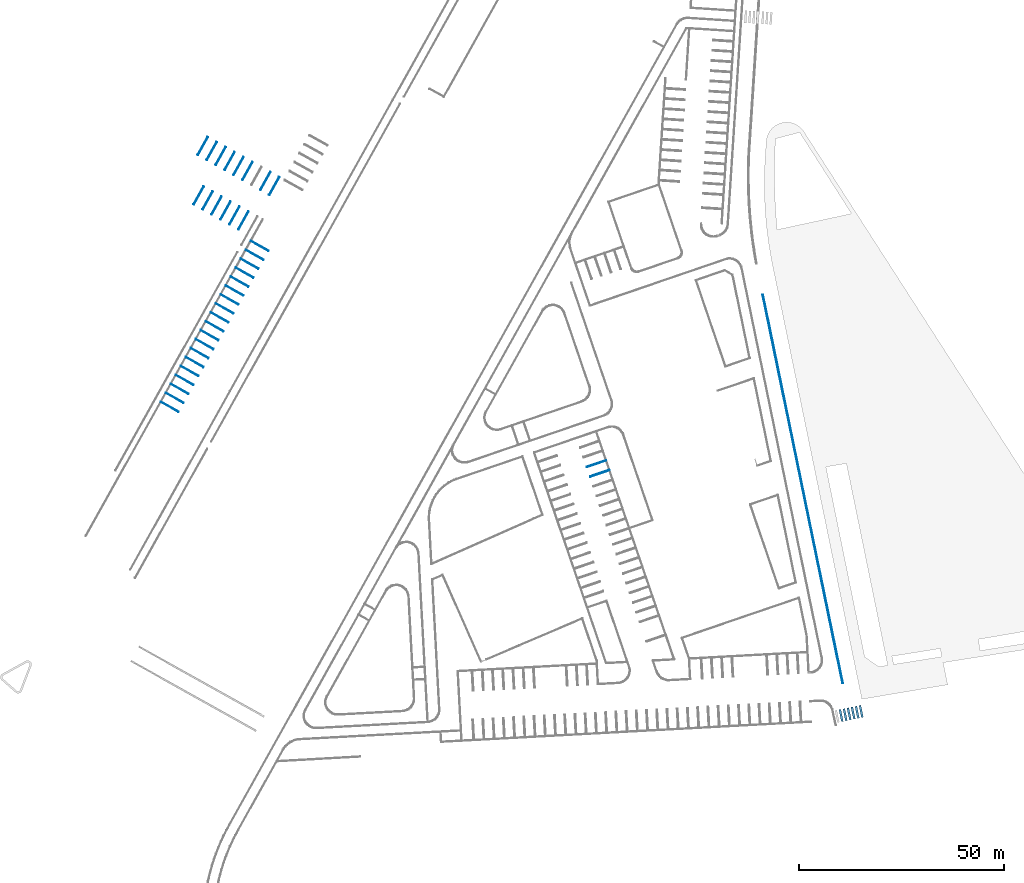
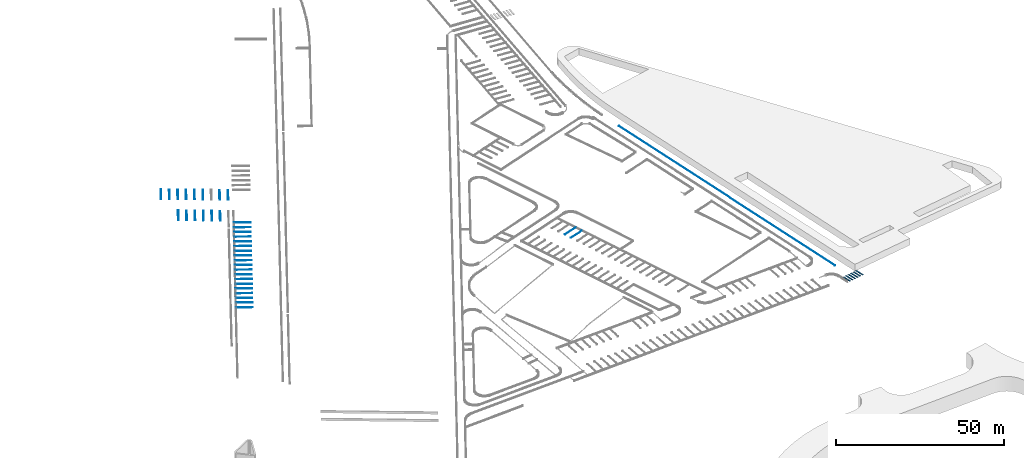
# One storey, part 79 of 112: 42 walls.
"""IFC2X3 building model written with IfcOpenShell, lengths in millimetres."""

from ifc_helpers import new_model, entity, si_unit, converted_unit, derived_unit, direction, frame, frame_2d, origin, origin_2d_with_axis, place, context, subcontext, project, spatial, rectangle, extrude, material, type_object, element, save


model = new_model("IFC2X3")

# Units and contexts
model_context = context("Model", 3, precision=0.01, world=origin(), true_north=direction((6.123031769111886e-17, 1.0)))
body_context = subcontext(model_context, "Body", "Model", "MODEL_VIEW")
ifc_project = project(units=[si_unit("LENGTHUNIT", "METRE", prefix="MILLI"), si_unit("AREAUNIT", "SQUARE_METRE"), si_unit("VOLUMEUNIT", "CUBIC_METRE"), converted_unit("PLANEANGLEUNIT", "DEGREE", entity("IfcRatioMeasure", 0.017453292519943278), si_unit("PLANEANGLEUNIT", "RADIAN"), dimensions=[0, 0, 0, 0, 0, 0, 0]), si_unit("MASSUNIT", "GRAM", prefix="KILO"), derived_unit("MASSDENSITYUNIT", [(si_unit("MASSUNIT", "GRAM", prefix="KILO"), 1), (si_unit("LENGTHUNIT", "METRE"), -3)]), derived_unit("MOMENTOFINERTIAUNIT", [(si_unit("LENGTHUNIT", "METRE"), 4)]), si_unit("TIMEUNIT", "SECOND"), si_unit("FREQUENCYUNIT", "HERTZ"), si_unit("THERMODYNAMICTEMPERATUREUNIT", "DEGREE_CELSIUS"), derived_unit("THERMALTRANSMITTANCEUNIT", [(si_unit("MASSUNIT", "GRAM", prefix="KILO"), 1), (si_unit("THERMODYNAMICTEMPERATUREUNIT", "KELVIN"), -1), (si_unit("TIMEUNIT", "SECOND"), -3)]), derived_unit("THERMALCONDUCTANCEUNIT", [(si_unit("MASSUNIT", "GRAM", prefix="KILO"), 1), (si_unit("LENGTHUNIT", "METRE"), 1), (si_unit("THERMODYNAMICTEMPERATUREUNIT", "KELVIN"), -1), (si_unit("TIMEUNIT", "SECOND"), -3)]), derived_unit("VOLUMETRICFLOWRATEUNIT", [(si_unit("LENGTHUNIT", "METRE"), 3), (si_unit("TIMEUNIT", "SECOND"), -1)]), derived_unit("MASSFLOWRATEUNIT", [(si_unit("MASSUNIT", "GRAM", prefix="KILO"), 1), (si_unit("TIMEUNIT", "SECOND"), -1)]), derived_unit("ROTATIONALFREQUENCYUNIT", [(si_unit("TIMEUNIT", "SECOND"), -1)]), si_unit("ELECTRICCURRENTUNIT", "AMPERE"), si_unit("ELECTRICVOLTAGEUNIT", "VOLT"), si_unit("POWERUNIT", "WATT"), converted_unit("FORCEUNIT", "KIP", entity("IfcRatioMeasure", 2.088543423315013e-05), si_unit("FORCEUNIT", "NEWTON"), dimensions=[1, 1, -2, 0, 0, 0, 0]), si_unit("ILLUMINANCEUNIT", "LUX"), si_unit("LUMINOUSFLUXUNIT", "LUMEN"), si_unit("LUMINOUSINTENSITYUNIT", "CANDELA"), derived_unit("USERDEFINED", [(si_unit("MASSUNIT", "GRAM", prefix="KILO"), -1), (si_unit("LENGTHUNIT", "METRE"), -2), (si_unit("TIMEUNIT", "SECOND"), 3), (si_unit("LUMINOUSFLUXUNIT", "LUMEN"), 1)]), derived_unit("USERDEFINED", [(si_unit("MASSUNIT", "GRAM", prefix="KILO"), 1), (si_unit("LENGTHUNIT", "METRE"), 3), (si_unit("TIMEUNIT", "SECOND"), -3), (si_unit("ELECTRICCURRENTUNIT", "AMPERE"), -2)]), derived_unit("USERDEFINED", [(si_unit("LENGTHUNIT", "METRE"), 2), (si_unit("TIMEUNIT", "SECOND"), -2)]), derived_unit("SOUNDPOWERUNIT", [(si_unit("MASSUNIT", "GRAM", prefix="KILO"), 1), (si_unit("LENGTHUNIT", "METRE"), 2), (si_unit("TIMEUNIT", "SECOND"), -3)]), derived_unit("SOUNDPRESSUREUNIT", [(si_unit("MASSUNIT", "GRAM", prefix="KILO"), 1), (si_unit("LENGTHUNIT", "METRE"), -1), (si_unit("TIMEUNIT", "SECOND"), -2)]), derived_unit("LINEARVELOCITYUNIT", [(si_unit("LENGTHUNIT", "METRE"), 1), (si_unit("TIMEUNIT", "SECOND"), -1)]), si_unit("PRESSUREUNIT", "PASCAL"), derived_unit("USERDEFINED", [(si_unit("LENGTHUNIT", "METRE"), -2), (si_unit("MASSUNIT", "GRAM", prefix="KILO"), 1), (si_unit("TIMEUNIT", "SECOND"), -2)]), derived_unit("LINEARFORCEUNIT", [(si_unit("MASSUNIT", "GRAM", prefix="KILO"), 1), (si_unit("LENGTHUNIT", "METRE"), 1), (si_unit("TIMEUNIT", "SECOND"), -2), (si_unit("LENGTHUNIT", "METRE"), -1)]), derived_unit("PLANARFORCEUNIT", [(si_unit("MASSUNIT", "GRAM", prefix="KILO"), 1), (si_unit("LENGTHUNIT", "METRE"), 1), (si_unit("TIMEUNIT", "SECOND"), -2), (si_unit("LENGTHUNIT", "METRE"), -2)]), derived_unit("SPECIFICHEATCAPACITYUNIT", [(si_unit("LENGTHUNIT", "METRE"), 2), (si_unit("TIMEUNIT", "SECOND"), -2), (si_unit("THERMODYNAMICTEMPERATUREUNIT", "KELVIN"), -1)]), derived_unit("VAPORPERMEABILITYUNIT", [(si_unit("TIMEUNIT", "SECOND"), 1), (si_unit("LENGTHUNIT", "METRE"), -1)]), derived_unit("DYNAMICVISCOSITYUNIT", [(si_unit("MASSUNIT", "GRAM", prefix="KILO"), 1), (si_unit("LENGTHUNIT", "METRE"), -1), (si_unit("TIMEUNIT", "SECOND"), -1)]), derived_unit("THERMALEXPANSIONCOEFFICIENTUNIT", [(si_unit("THERMODYNAMICTEMPERATUREUNIT", "KELVIN"), -1)])], contexts=[model_context])

# Site, building, storey
site_placement = place(None, frame((0.0, 0.0, 0.0), z_axis=(0.0, 0.0, 1.0), x_axis=(0.8191520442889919, 0.5735764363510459, 0.0)))
site = spatial("IfcSite", under=ifc_project, at=site_placement, Name="Default", CompositionType="ELEMENT")
building_placement = place(site_placement, origin())
building = spatial("IfcBuilding", under=site, at=building_placement, CompositionType="ELEMENT")
storey_placement = place(building_placement, frame((0.0, 0.0, -3600.0)))
storey = spatial("IfcBuildingStorey", under=building, at=storey_placement, Name="0.UG -3.60", CompositionType="ELEMENT", Elevation=-3600.0000000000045)

# Walls
ifc_material = material(Name="road_markirovka")
wall_type_1 = type_object("IfcWallType", Name="04", PredefinedType="NOTDEFINED", material=ifc_material)
wall_1_placement = place(storey_placement, frame((61648.51552232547, 16745.03513024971, 950.0), z_axis=(0.0, 0.0, 1.0), x_axis=(0.0, 1.0, 0.0)))
element("IfcWall", 1, at=wall_1_placement, inside=storey, type_object=wall_type_1, material=ifc_material, Name="04 203373:04 203373", ObjectType="04 203373:04 203373", context=body_context, shape_type="SweptSolid", body=[
    extrude(rectangle(XDim=200.00000000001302, YDim=96870.42140289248, at=frame_2d((-7.581490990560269e-12, 0.0), x_axis=(1.0, 0.0))), frame((44499.05336777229, -19309.844531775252, 0.0), z_axis=(0.0, 0.0, 1.0), x_axis=(0.3967785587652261, 0.9179143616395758, 0.0)), (0.0, 0.0, 1.0), 9.999999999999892),
])
wall_type_2 = type_object("IfcWallType", Name="04", PredefinedType="NOTDEFINED", material=ifc_material)
wall_2_placement = place(storey_placement, frame((40813.09495243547, 94393.42813679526, 2050.0)))
element("IfcWall", 2, at=wall_2_placement, inside=storey, type_object=wall_type_2, material=ifc_material, Name="04 205029:04 205029", ObjectType="04 205029:04 205029", context=body_context, shape_type="SweptSolid", body=[
    extrude(rectangle(XDim=199.99999999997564, YDim=5000.00000000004, at=frame_2d((9.542588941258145e-12, -1.8189894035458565e-12), x_axis=(1.0, 0.0))), frame((2429.5798968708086, 789.7597848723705, 0.0), z_axis=(0.0, 0.0, 1.0), x_axis=(0.2774745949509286, 0.9607329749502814, 0.0)), (0.0, 0.0, 1.0), 9.999999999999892),
])
wall_type_3 = type_object("IfcWallType", Name="04", PredefinedType="NOTDEFINED", material=ifc_material)
wall_3_placement = place(storey_placement, frame((40119.408465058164, 91991.59569941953, 2050.0)))
element("IfcWall", 3, at=wall_3_placement, inside=storey, type_object=wall_type_3, material=ifc_material, Name="04 205034:04 205034", ObjectType="04 205034:04 205034", context=body_context, shape_type="SweptSolid", body=[
    extrude(rectangle(XDim=199.99999999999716, YDim=5000.000000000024, at=frame_2d((9.542588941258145e-12, -1.5916157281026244e-12), x_axis=(1.0, 0.0))), frame((2429.5798968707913, 789.7597848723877, 0.0), z_axis=(0.0, 0.0, 1.0), x_axis=(0.2774745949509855, 0.9607329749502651, 0.0)), (0.0, 0.0, 1.0), 9.999999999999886),
])
wall_type_4 = type_object("IfcWallType", Name="05", PredefinedType="NOTDEFINED", material=ifc_material)
wall_4_placement = place(storey_placement, frame((-35310.448706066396, 164007.0898025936, 2310.0), z_axis=(0.0, 0.0, 1.0), x_axis=(0.0, 1.0, 0.0)))
element("IfcWall", 4, at=wall_4_placement, inside=storey, type_object=wall_type_4, material=ifc_material, Name="05 206878:05 206878", ObjectType="05 206878:05 206878", context=body_context, shape_type="SweptSolid", body=[
    extrude(rectangle(XDim=200.00000000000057, YDim=5000.000000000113, at=frame_2d((-3.652189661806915e-12, -1.77351466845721e-11), x_axis=(1.0, 0.0))), frame((2294.368159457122, -1178.003194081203, 0.0), z_axis=(0.0, 0.0, 1.0), x_axis=(-0.43518768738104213, 0.9003397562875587, 0.0)), (0.0, 0.0, 1.0), 9.999999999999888),
])
wall_type_5 = type_object("IfcWallType", Name="05", PredefinedType="NOTDEFINED", material=ifc_material)
wall_5_placement = place(storey_placement, frame((-28557.900533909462, 167270.99745795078, 2185.0), z_axis=(0.0, 0.0, 1.0), x_axis=(0.0, 1.0, 0.0)))
element("IfcWall", 5, at=wall_5_placement, inside=storey, type_object=wall_type_5, material=ifc_material, Name="05 206880:05 206880", ObjectType="05 206880:05 206880", context=body_context, shape_type="SweptSolid", body=[
    extrude(rectangle(XDim=200.00000000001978, YDim=5000.0000000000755, at=frame_2d((-1.8971491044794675e-12, 9.094947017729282e-13), x_axis=(1.0, 0.0))), frame((2294.368159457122, -1178.0031940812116, 0.0), z_axis=(0.0, 0.0, 1.0), x_axis=(-0.43518768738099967, 0.9003397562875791, 0.0)), (0.0, 0.0, 1.0), 9.999999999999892),
])
wall_type_6 = type_object("IfcWallType", Name="05", PredefinedType="NOTDEFINED", material=ifc_material)
wall_6_placement = place(storey_placement, frame((-30808.749924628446, 166183.0282394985, 2220.0), z_axis=(0.0, 0.0, 1.0), x_axis=(0.0, 1.0, 0.0)))
element("IfcWall", 6, at=wall_6_placement, inside=storey, type_object=wall_type_6, material=ifc_material, Name="05 206881:05 206881", ObjectType="05 206881:05 206881", context=body_context, shape_type="SweptSolid", body=[
    extrude(rectangle(XDim=200.0000000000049, YDim=5000.000000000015, at=frame_2d((-1.9682033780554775e-12, 6.821210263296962e-13), x_axis=(1.0, 0.0))), frame((2294.3681594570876, -1178.0031940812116, 0.0), z_axis=(0.0, 0.0, 1.0), x_axis=(-0.43518768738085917, 0.900339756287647, 0.0)), (0.0, 0.0, 1.0), 9.999999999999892),
])
wall_type_7 = type_object("IfcWallType", Name="05", PredefinedType="NOTDEFINED", material=ifc_material)
wall_7_placement = place(storey_placement, frame((-26307.05114319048, 168358.9666764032, 2150.0), z_axis=(0.0, 0.0, 1.0), x_axis=(0.0, 1.0, 0.0)))
element("IfcWall", 7, at=wall_7_placement, inside=storey, type_object=wall_type_7, material=ifc_material, Name="05 206884:05 206884", ObjectType="05 206884:05 206884", context=body_context, shape_type="SweptSolid", body=[
    extrude(rectangle(XDim=200.0000000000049, YDim=5000.000000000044, at=frame_2d((5.5493387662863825e-12, 1.6370904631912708e-11), x_axis=(1.0, 0.0))), frame((2294.368159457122, -1178.0031940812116, 0.0), z_axis=(0.0, 0.0, 1.0), x_axis=(-0.43518768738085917, 0.900339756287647, 0.0)), (0.0, 0.0, 1.0), 9.999999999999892),
])
wall_type_8 = type_object("IfcWallType", Name="05", PredefinedType="NOTDEFINED", material=ifc_material)
wall_8_placement = place(storey_placement, frame((-21805.352361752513, 170534.9051133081, 2060.0), z_axis=(0.0, 0.0, 1.0), x_axis=(0.0, 1.0, 0.0)))
element("IfcWall", 8, at=wall_8_placement, inside=storey, type_object=wall_type_8, material=ifc_material, Name="05 206887:05 206887", ObjectType="05 206887:05 206887", context=body_context, shape_type="SweptSolid", body=[
    extrude(rectangle(XDim=200.00000000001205, YDim=5000.000000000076, at=frame_2d((-9.542588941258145e-12, -1.4779288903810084e-11), x_axis=(1.0, 0.0))), frame((2294.3681594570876, -1178.003194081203, 0.0), z_axis=(0.0, 0.0, 1.0), x_axis=(-0.4351876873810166, 0.9003397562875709, 0.0)), (0.0, 0.0, 1.0), 9.999999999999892),
])
wall_type_9 = type_object("IfcWallType", Name="05", PredefinedType="NOTDEFINED", material=ifc_material)
wall_9_placement = place(storey_placement, frame((-24056.201752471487, 169446.9358948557, 2095.0), z_axis=(0.0, 0.0, 1.0), x_axis=(0.0, 1.0, 0.0)))
element("IfcWall", 9, at=wall_9_placement, inside=storey, type_object=wall_type_9, material=ifc_material, Name="05 206889:05 206889", ObjectType="05 206889:05 206889", context=body_context, shape_type="SweptSolid", body=[
    extrude(rectangle(XDim=199.99999999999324, YDim=5000.000000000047, at=frame_2d((1.8971491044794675e-12, -9.094947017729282e-13), x_axis=(1.0, 0.0))), frame((2294.3681594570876, -1178.003194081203, 0.0), z_axis=(0.0, 0.0, 1.0), x_axis=(-0.43518768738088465, 0.9003397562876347, 0.0)), (0.0, 0.0, 1.0), 9.999999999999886),
])
wall_type_10 = type_object("IfcWallType", Name="05", PredefinedType="NOTDEFINED", material=ifc_material)
wall_10_placement = place(storey_placement, frame((-33059.599315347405, 165095.05902104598, 2275.0), z_axis=(0.0, 0.0, 1.0), x_axis=(0.0, 1.0, 0.0)))
element("IfcWall", 10, at=wall_10_placement, inside=storey, type_object=wall_type_10, material=ifc_material, Name="05 206890:05 206890", ObjectType="05 206890:05 206890", context=body_context, shape_type="SweptSolid", body=[
    extrude(rectangle(XDim=199.99999999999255, YDim=5000.000000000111, at=frame_2d((1.1503686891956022e-11, 1.3642420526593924e-11), x_axis=(1.0, 0.0))), frame((2294.3681594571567, -1178.0031940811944, 0.0), z_axis=(0.0, 0.0, 1.0), x_axis=(-0.43518768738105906, 0.9003397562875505, 0.0)), (0.0, 0.0, 1.0), 9.999999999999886),
])
wall_type_11 = type_object("IfcWallType", Name="05", PredefinedType="NOTDEFINED", material=ifc_material)
wall_11_placement = place(storey_placement, frame((-19554.502971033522, 171622.8743317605, 2025.0), z_axis=(0.0, 0.0, 1.0), x_axis=(0.0, 1.0, 0.0)))
element("IfcWall", 11, at=wall_11_placement, inside=storey, type_object=wall_type_11, material=ifc_material, Name="05 206891:05 206891", ObjectType="05 206891:05 206891", context=body_context, shape_type="SweptSolid", body=[
    extrude(rectangle(XDim=199.9999999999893, YDim=5000.000000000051, at=frame_2d((8.462563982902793e-12, 1.5006662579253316e-11), x_axis=(1.0, 0.0))), frame((2294.368159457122, -1178.003194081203, 0.0), z_axis=(0.0, 0.0, 1.0), x_axis=(-0.43518768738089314, 0.9003397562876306, 0.0)), (0.0, 0.0, 1.0), 9.99999999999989),
])
wall_type_12 = type_object("IfcWallType", Name="05", PredefinedType="NOTDEFINED", material=ifc_material)
wall_12_placement = place(storey_placement, frame((-15052.804189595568, 173798.8127686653, 1955.0), z_axis=(0.0, 0.0, 1.0), x_axis=(0.0, 1.0, 0.0)))
element("IfcWall", 12, at=wall_12_placement, inside=storey, type_object=wall_type_12, material=ifc_material, Name="05 206893:05 206893", ObjectType="05 206893:05 206893", context=body_context, shape_type="SweptSolid", body=[
    extrude(rectangle(XDim=200.00000000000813, YDim=5000.000000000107, at=frame_2d((-8.526512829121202e-12, -1.5234036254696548e-11), x_axis=(1.0, 0.0))), frame((2294.368159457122, -1178.003194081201, 0.0), z_axis=(0.0, 0.0, 1.0), x_axis=(-0.4351876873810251, 0.9003397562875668, 0.0)), (0.0, 0.0, 1.0), 9.999999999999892),
])
wall_type_13 = type_object("IfcWallType", Name="05", PredefinedType="NOTDEFINED", material=ifc_material)
wall_13_placement = place(storey_placement, frame((-17303.65358031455, 172710.8435502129, 1990.0), z_axis=(0.0, 0.0, 1.0), x_axis=(0.0, 1.0, 0.0)))
element("IfcWall", 13, at=wall_13_placement, inside=storey, type_object=wall_type_13, material=ifc_material, Name="05 206896:05 206896", ObjectType="05 206896:05 206896", context=body_context, shape_type="SweptSolid", body=[
    extrude(rectangle(XDim=200.00000000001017, YDim=5000.000000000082, at=frame_2d((-7.510436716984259e-12, -1.5688783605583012e-11), x_axis=(1.0, 0.0))), frame((2294.3681594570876, -1178.0031940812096, 0.0), z_axis=(0.0, 0.0, 1.0), x_axis=(-0.43518768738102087, 0.9003397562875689, 0.0)), (0.0, 0.0, 1.0), 9.999999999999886),
])
wall_type_14 = type_object("IfcWallType", Name="05", PredefinedType="NOTDEFINED", material=ifc_material)
wall_14_placement = place(storey_placement, frame((-12801.9547988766, 174886.78198711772, 1920.0), z_axis=(0.0, 0.0, 1.0), x_axis=(0.0, 1.0, 0.0)))
element("IfcWall", 14, at=wall_14_placement, inside=storey, type_object=wall_type_14, material=ifc_material, Name="05 206897:05 206897", ObjectType="05 206897:05 206897", context=body_context, shape_type="SweptSolid", body=[
    extrude(rectangle(XDim=200.0000000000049, YDim=5000.000000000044, at=frame_2d((-5.8832938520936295e-12, 2.7284841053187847e-12), x_axis=(1.0, 0.0))), frame((2294.3681594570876, -1178.003194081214, 0.0), z_axis=(0.0, 0.0, 1.0), x_axis=(-0.43518768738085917, 0.900339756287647, 0.0)), (0.0, 0.0, 1.0), 9.999999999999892),
])
wall_type_15 = type_object("IfcWallType", Name="05", PredefinedType="NOTDEFINED", material=ifc_material)
wall_15_placement = place(storey_placement, frame((-10551.105408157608, 175974.7512055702, 1885.0), z_axis=(0.0, 0.0, 1.0), x_axis=(0.0, 1.0, 0.0)))
element("IfcWall", 15, at=wall_15_placement, inside=storey, type_object=wall_type_15, material=ifc_material, Name="05 206899:05 206899", ObjectType="05 206899:05 206899", context=body_context, shape_type="SweptSolid", body=[
    extrude(rectangle(XDim=200.00000000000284, YDim=5000.000000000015, at=frame_2d((-1.0160761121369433e-12, 2.2737367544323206e-13), x_axis=(1.0, 0.0))), frame((2294.3681594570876, -1178.0031940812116, 0.0), z_axis=(0.0, 0.0, 1.0), x_axis=(-0.43518768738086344, 0.900339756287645, 0.0)), (0.0, 0.0, 1.0), 9.999999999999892),
])
wall_type_16 = type_object("IfcWallType", Name="05", PredefinedType="NOTDEFINED", material=ifc_material)
wall_16_placement = place(storey_placement, frame((-8300.256017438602, 177062.72042402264, 1850.0), z_axis=(0.0, 0.0, 1.0), x_axis=(0.0, 1.0, 0.0)))
element("IfcWall", 16, at=wall_16_placement, inside=storey, type_object=wall_type_16, material=ifc_material, Name="05 206901:05 206901", ObjectType="05 206901:05 206901", context=body_context, shape_type="SweptSolid", body=[
    extrude(rectangle(XDim=199.9999999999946, YDim=5000.000000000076, at=frame_2d((-4.604316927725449e-12, -1.7053025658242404e-11), x_axis=(1.0, 0.0))), frame((2294.3681594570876, -1178.00319408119, 0.0), z_axis=(0.0, 0.0, 1.0), x_axis=(-0.4351876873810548, 0.9003397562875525, 0.0)), (0.0, 0.0, 1.0), 9.999999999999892),
])
wall_type_17 = type_object("IfcWallType", Name="05", PredefinedType="NOTDEFINED", material=ifc_material)
wall_17_placement = place(storey_placement, frame((-3798.557236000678, 179238.65886092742, 1780.0), z_axis=(0.0, 0.0, 1.0), x_axis=(0.0, 1.0, 0.0)))
element("IfcWall", 17, at=wall_17_placement, inside=storey, type_object=wall_type_17, material=ifc_material, Name="05 206903:05 206903", ObjectType="05 206903:05 206903", context=body_context, shape_type="SweptSolid", body=[
    extrude(rectangle(XDim=200.00000000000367, YDim=5000.000000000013, at=frame_2d((-1.333688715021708e-11, -1.2960299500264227e-11), x_axis=(1.0, 0.0))), frame((2294.368159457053, -1178.0031940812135, 0.0), z_axis=(0.0, 0.0, 1.0), x_axis=(-0.43518768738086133, 0.900339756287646, 0.0)), (0.0, 0.0, 1.0), 9.999999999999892),
])
wall_type_18 = type_object("IfcWallType", Name="05", PredefinedType="NOTDEFINED", material=ifc_material)
wall_18_placement = place(storey_placement, frame((-1547.707845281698, 180326.62807937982, 1745.0), z_axis=(0.0, 0.0, 1.0), x_axis=(0.0, 1.0, 0.0)))
element("IfcWall", 18, at=wall_18_placement, inside=storey, type_object=wall_type_18, material=ifc_material, Name="05 206905:05 206905", ObjectType="05 206905:05 206905", context=body_context, shape_type="SweptSolid", body=[
    extrude(rectangle(XDim=200.0000000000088, YDim=5000.000000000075, at=frame_2d((-1.049471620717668e-11, -1.432454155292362e-11), x_axis=(1.0, 0.0))), frame((2294.3681594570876, -1178.0031940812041, 0.0), z_axis=(0.0, 0.0, 1.0), x_axis=(-0.43518768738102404, 0.9003397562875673, 0.0)), (0.0, 0.0, 1.0), 9.999999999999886),
])
wall_type_19 = type_object("IfcWallType", Name="05", PredefinedType="NOTDEFINED", material=ifc_material)
wall_19_placement = place(storey_placement, frame((703.1415454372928, 181414.59729783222, 1710.0), z_axis=(0.0, 0.0, 1.0), x_axis=(0.0, 1.0, 0.0)))
element("IfcWall", 19, at=wall_19_placement, inside=storey, type_object=wall_type_19, material=ifc_material, Name="05 206907:05 206907", ObjectType="05 206907:05 206907", context=body_context, shape_type="SweptSolid", body=[
    extrude(rectangle(XDim=200.0000000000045, YDim=5000.000000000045, at=frame_2d((4.533262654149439e-12, 1.7053025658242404e-11), x_axis=(1.0, 0.0))), frame((2294.368159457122, -1178.0031940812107, 0.0), z_axis=(0.0, 0.0, 1.0), x_axis=(-0.43518768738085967, 0.9003397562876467, 0.0)), (0.0, 0.0, 1.0), 9.999999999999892),
])
wall_type_20 = type_object("IfcWallType", Name="05", PredefinedType="NOTDEFINED", material=ifc_material)
wall_20_placement = place(storey_placement, frame((2953.9909361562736, 182502.5665162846, 1675.0), z_axis=(0.0, 0.0, 1.0), x_axis=(0.0, 1.0, 0.0)))
element("IfcWall", 20, at=wall_20_placement, inside=storey, type_object=wall_type_20, material=ifc_material, Name="05 206911:05 206911", ObjectType="05 206911:05 206911", context=body_context, shape_type="SweptSolid", body=[
    extrude(rectangle(XDim=200.0000000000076, YDim=5000.000000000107, at=frame_2d((2.7000623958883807e-13, 0.0), x_axis=(1.0, 0.0))), frame((2294.368159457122, -1178.003194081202, 0.0), z_axis=(0.0, 0.0, 1.0), x_axis=(-0.4351876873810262, 0.9003397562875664, 0.0)), (0.0, 0.0, 1.0), 9.999999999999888),
])
wall_type_21 = type_object("IfcWallType", Name="05", PredefinedType="NOTDEFINED", material=ifc_material)
wall_21_placement = place(storey_placement, frame((14314.681859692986, 196869.33058300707, 1650.0)))
element("IfcWall", 21, at=wall_21_placement, inside=storey, type_object=wall_type_21, material=ifc_material, Name="05 206912:05 206912", ObjectType="05 206912:05 206912", context=body_context, shape_type="SweptSolid", body=[
    extrude(rectangle(XDim=200.00000000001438, YDim=5000.000000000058, at=origin_2d_with_axis()), frame((2294.3681594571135, 1178.0031940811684, 0.0), z_axis=(0.0, 0.0, 1.0), x_axis=(-0.43518768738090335, 0.9003397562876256, 0.0)), (0.0, 0.0, 1.0), 9.999999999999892),
])
wall_type_22 = type_object("IfcWallType", Name="05", PredefinedType="NOTDEFINED", material=ifc_material)
wall_22_placement = place(storey_placement, frame((-6049.406626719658, 178150.689642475, 1815.0), z_axis=(0.0, 0.0, 1.0), x_axis=(0.0, 1.0, 0.0)))
element("IfcWall", 22, at=wall_22_placement, inside=storey, type_object=wall_type_22, material=ifc_material, Name="05 206914:05 206914", ObjectType="05 206914:05 206914", context=body_context, shape_type="SweptSolid", body=[
    extrude(rectangle(XDim=200.00000000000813, YDim=5000.000000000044, at=frame_2d((4.945377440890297e-12, 1.6825651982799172e-11), x_axis=(1.0, 0.0))), frame((2294.368159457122, -1178.0031940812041, 0.0), z_axis=(0.0, 0.0, 1.0), x_axis=(-0.4351876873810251, 0.9003397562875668, 0.0)), (0.0, 0.0, 1.0), 9.999999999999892),
])
wall_type_23 = type_object("IfcWallType", Name="05", PredefinedType="NOTDEFINED", material=ifc_material)
wall_23_placement = place(storey_placement, frame((5204.840326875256, 183590.53573473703, 1640.0), z_axis=(0.0, 0.0, 1.0), x_axis=(0.0, 1.0, 0.0)))
element("IfcWall", 23, at=wall_23_placement, inside=storey, type_object=wall_type_23, material=ifc_material, Name="05 206917:05 206917", ObjectType="05 206917:05 206917", context=body_context, shape_type="SweptSolid", body=[
    extrude(rectangle(XDim=199.99999999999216, YDim=5000.000000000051, at=frame_2d((8.050449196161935e-12, 1.5234036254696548e-11), x_axis=(1.0, 0.0))), frame((2294.368159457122, -1178.0031940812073, 0.0), z_axis=(0.0, 0.0, 1.0), x_axis=(-0.4351876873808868, 0.9003397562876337, 0.0)), (0.0, 0.0, 1.0), 9.999999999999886),
])
wall_type_24 = type_object("IfcWallType", Name="05", PredefinedType="NOTDEFINED", material=ifc_material)
wall_24_placement = place(storey_placement, frame((9962.804985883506, 205872.72814588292, 1850.0)))
element("IfcWall", 24, at=wall_24_placement, inside=storey, type_object=wall_type_24, material=ifc_material, Name="05 206918:05 206918", ObjectType="05 206918:05 206918", context=body_context, shape_type="SweptSolid", body=[
    extrude(rectangle(XDim=200.00000000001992, YDim=5000.000000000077, at=frame_2d((9.450218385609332e-13, 2.2737367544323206e-12), x_axis=(1.0, 0.0))), frame((2294.368159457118, 1178.0031940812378, 0.0), z_axis=(0.0, 0.0, 1.0), x_axis=(-0.43518768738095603, 0.9003397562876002, 0.0)), (0.0, 0.0, 1.0), 9.999999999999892),
])
wall_type_25 = type_object("IfcWallType", Name="05", PredefinedType="NOTDEFINED", material=ifc_material)
wall_25_placement = place(storey_placement, frame((11050.774204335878, 203621.87875516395, 1800.0)))
element("IfcWall", 25, at=wall_25_placement, inside=storey, type_object=wall_type_25, material=ifc_material, Name="05 206921:05 206921", ObjectType="05 206921:05 206921", context=body_context, shape_type="SweptSolid", body=[
    extrude(rectangle(XDim=200.0000000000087, YDim=5000.000000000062, at=frame_2d((9.450218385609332e-13, 1.8189894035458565e-12), x_axis=(1.0, 0.0))), frame((2294.3681594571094, 1178.003194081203, 0.0), z_axis=(0.0, 0.0, 1.0), x_axis=(-0.43518768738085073, 0.9003397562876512, 0.0)), (0.0, 0.0, 1.0), 9.999999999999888),
])
wall_type_26 = type_object("IfcWallType", Name="05", PredefinedType="NOTDEFINED", material=ifc_material)
wall_26_placement = place(storey_placement, frame((12138.743422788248, 201371.02936444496, 1750.0)))
element("IfcWall", 26, at=wall_26_placement, inside=storey, type_object=wall_type_26, material=ifc_material, Name="05 206922:05 206922", ObjectType="05 206922:05 206922", context=body_context, shape_type="SweptSolid", body=[
    extrude(rectangle(XDim=200.0000000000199, YDim=5000.000000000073, at=frame_2d((-9.450218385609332e-13, -2.2737367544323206e-12), x_axis=(1.0, 0.0))), frame((2294.3681594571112, 1178.003194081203, 0.0), z_axis=(0.0, 0.0, 1.0), x_axis=(-0.43518768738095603, 0.9003397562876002, 0.0)), (0.0, 0.0, 1.0), 9.999999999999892),
])
wall_type_27 = type_object("IfcWallType", Name="05", PredefinedType="NOTDEFINED", material=ifc_material)
wall_27_placement = place(storey_placement, frame((15402.651078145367, 194618.48119228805, 1610.0)))
element("IfcWall", 27, at=wall_27_placement, inside=storey, type_object=wall_type_27, material=ifc_material, Name="05 206925:05 206925", ObjectType="05 206925:05 206925", context=body_context, shape_type="SweptSolid", body=[
    extrude(rectangle(XDim=199.99999999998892, YDim=5000.000000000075, at=frame_2d((-1.752908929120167e-11, 3.865352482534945e-12), x_axis=(1.0, 0.0))), frame((2294.3681594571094, 1178.003194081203, 0.0), z_axis=(0.0, 0.0, 1.0), x_axis=(-0.4351876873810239, 0.9003397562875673, 0.0)), (0.0, 0.0, 1.0), 9.999999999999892),
])
wall_type_28 = type_object("IfcWallType", Name="05", PredefinedType="NOTDEFINED", material=ifc_material)
wall_28_placement = place(storey_placement, frame((8874.835767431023, 208123.57753660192, 1900.0)))
element("IfcWall", 28, at=wall_28_placement, inside=storey, type_object=wall_type_28, material=ifc_material, Name="05 206927:05 206927", ObjectType="05 206927:05 206927", context=body_context, shape_type="SweptSolid", body=[
    extrude(rectangle(XDim=199.99999999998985, YDim=5000.000000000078, at=frame_2d((3.092992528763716e-11, -1.546140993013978e-11), x_axis=(1.0, 0.0))), frame((2294.368159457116, 1178.003194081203, 0.0), z_axis=(0.0, 0.0, 1.0), x_axis=(-0.4351876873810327, 0.9003397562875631, 0.0)), (0.0, 0.0, 1.0), 9.999999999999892),
])
wall_type_29 = type_object("IfcWallType", Name="05", PredefinedType="NOTDEFINED", material=ifc_material)
wall_29_placement = place(storey_placement, frame((6698.897330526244, 212625.27631803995, 2010.0)))
element("IfcWall", 29, at=wall_29_placement, inside=storey, type_object=wall_type_29, material=ifc_material, Name="05 206929:05 206929", ObjectType="05 206929:05 206929", context=body_context, shape_type="SweptSolid", body=[
    extrude(rectangle(XDim=200.00000000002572, YDim=5000.000000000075, at=frame_2d((-1.4210854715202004e-12, -2.9558577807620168e-12), x_axis=(1.0, 0.0))), frame((2294.368159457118, 1178.003194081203, 0.0), z_axis=(0.0, 0.0, 1.0), x_axis=(-0.4351876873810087, 0.9003397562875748, 0.0)), (0.0, 0.0, 1.0), 9.99999999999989),
])
wall_type_30 = type_object("IfcWallType", Name="05", PredefinedType="NOTDEFINED", material=ifc_material)
wall_30_placement = place(storey_placement, frame((3322.975322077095, 194333.11541253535, 1750.0)))
element("IfcWall", 30, at=wall_30_placement, inside=storey, type_object=wall_type_30, material=ifc_material, Name="05 206932:05 206932", ObjectType="05 206932:05 206932", context=body_context, shape_type="SweptSolid", body=[
    extrude(rectangle(XDim=200.00000000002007, YDim=5000.000000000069, at=frame_2d((-1.7060131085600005e-11, 4.547473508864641e-12), x_axis=(1.0, 0.0))), frame((2294.368159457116, 1178.003194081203, 0.0), z_axis=(0.0, 0.0, 1.0), x_axis=(-0.43518768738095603, 0.9003397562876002, 0.0)), (0.0, 0.0, 1.0), 9.999999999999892),
])
wall_type_31 = type_object("IfcWallType", Name="05", PredefinedType="NOTDEFINED", material=ifc_material)
wall_31_placement = place(storey_placement, frame((2235.0061036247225, 196583.96480325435, 1820.0)))
element("IfcWall", 31, at=wall_31_placement, inside=storey, type_object=wall_type_31, material=ifc_material, Name="05 206934:05 206934", ObjectType="05 206934:05 206934", context=body_context, shape_type="SweptSolid", body=[
    extrude(rectangle(XDim=200.0000000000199, YDim=5000.000000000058, at=frame_2d((1.4487966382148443e-11, -1.000444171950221e-11), x_axis=(1.0, 0.0))), frame((2294.3681594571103, 1178.0031940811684, 0.0), z_axis=(0.0, 0.0, 1.0), x_axis=(-0.43518768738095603, 0.9003397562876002, 0.0)), (0.0, 0.0, 1.0), 9.99999999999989),
])
wall_type_32 = type_object("IfcWallType", Name="05", PredefinedType="NOTDEFINED", material=ifc_material)
wall_32_placement = place(storey_placement, frame((1147.0368851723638, 198834.81419397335, 1890.0)))
element("IfcWall", 32, at=wall_32_placement, inside=storey, type_object=wall_type_32, material=ifc_material, Name="05 206935:05 206935", ObjectType="05 206935:05 206935", context=body_context, shape_type="SweptSolid", body=[
    extrude(rectangle(XDim=200.00000000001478, YDim=5000.000000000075, at=frame_2d((-1.7188028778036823e-11, 3.865352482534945e-12), x_axis=(1.0, 0.0))), frame((2294.368159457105, 1178.003194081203, 0.0), z_axis=(0.0, 0.0, 1.0), x_axis=(-0.4351876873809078, 0.9003397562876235, 0.0)), (0.0, 0.0, 1.0), 9.999999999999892),
])
wall_type_33 = type_object("IfcWallType", Name="05", PredefinedType="NOTDEFINED", material=ifc_material)
wall_33_placement = place(storey_placement, frame((59.06766671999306, 201085.66358469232, 1960.0)))
element("IfcWall", 33, at=wall_33_placement, inside=storey, type_object=wall_type_33, material=ifc_material, Name="05 206939:05 206939", ObjectType="05 206939:05 206939", context=body_context, shape_type="SweptSolid", body=[
    extrude(rectangle(XDim=199.99999999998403, YDim=5000.000000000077, at=frame_2d((1.5432988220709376e-11, -7.958078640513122e-12), x_axis=(1.0, 0.0))), frame((2294.368159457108, 1178.003194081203, 0.0), z_axis=(0.0, 0.0, 1.0), x_axis=(-0.43518768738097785, 0.9003397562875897, 0.0)), (0.0, 0.0, 1.0), 9.999999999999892),
])
wall_type_34 = type_object("IfcWallType", Name="05", PredefinedType="NOTDEFINED", material=ifc_material)
wall_34_placement = place(storey_placement, frame((7786.866548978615, 210374.42692732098, 1960.0)))
element("IfcWall", 34, at=wall_34_placement, inside=storey, type_object=wall_type_34, material=ifc_material, Name="05 206941:05 206941", ObjectType="05 206941:05 206941", context=body_context, shape_type="SweptSolid", body=[
    extrude(rectangle(XDim=200.00000000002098, YDim=5000.000000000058, at=frame_2d((-1.4210854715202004e-12, -2.7284841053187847e-12), x_axis=(1.0, 0.0))), frame((2294.3681594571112, 1178.0031940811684, 0.0), z_axis=(0.0, 0.0, 1.0), x_axis=(-0.4351876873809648, 0.900339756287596, 0.0)), (0.0, 0.0, 1.0), 9.999999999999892),
])
wall_type_35 = type_object("IfcWallType", Name="05", PredefinedType="NOTDEFINED", material=ifc_material)
wall_35_placement = place(storey_placement, frame((-1028.9015517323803, 203336.51297541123, 2030.0)))
element("IfcWall", 35, at=wall_35_placement, inside=storey, type_object=wall_type_35, material=ifc_material, Name="05 206942:05 206942", ObjectType="05 206942:05 206942", context=body_context, shape_type="SweptSolid", body=[
    extrude(rectangle(XDim=199.99999999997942, YDim=5000.000000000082, at=frame_2d((1.2860823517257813e-12, 2.7284841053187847e-12), x_axis=(1.0, 0.0))), frame((2294.368159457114, 1178.003194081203, 0.0), z_axis=(0.0, 0.0, 1.0), x_axis=(-0.4351876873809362, 0.9003397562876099, 0.0)), (0.0, 0.0, 1.0), 9.999999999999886),
])
wall_type_36 = type_object("IfcWallType", Name="05", PredefinedType="NOTDEFINED", material=ifc_material)
wall_36_placement = place(storey_placement, frame((4410.9445405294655, 192082.26602181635, 1680.0)))
element("IfcWall", 36, at=wall_36_placement, inside=storey, type_object=wall_type_36, material=ifc_material, Name="05 206944:05 206944", ObjectType="05 206944:05 206944", context=body_context, shape_type="SweptSolid", body=[
    extrude(rectangle(XDim=200.00000000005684, YDim=5000.000000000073, at=frame_2d((-1.8339108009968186e-11, 1.8189894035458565e-12), x_axis=(1.0, 0.0))), frame((2294.3681594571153, 1178.003194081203, 0.0), z_axis=(0.0, 0.0, 1.0), x_axis=(-0.4351876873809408, 0.9003397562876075, 0.0)), (0.0, 0.0, 1.0), 9.999999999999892),
])
wall_type_37 = type_object("IfcWallType", Name="81", PredefinedType="NOTDEFINED", material=ifc_material)
wall_37_placement = place(storey_placement, frame((59742.899132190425, 7528.148330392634, 950.0), z_axis=(0.0, 0.0, 1.0), x_axis=(0.0, 1.0, 0.0)))
element("IfcWall", 37, at=wall_37_placement, inside=storey, type_object=wall_type_37, material=ifc_material, Name="81 207297:81 207297", ObjectType="81 207297:81 207297", context=body_context, shape_type="SweptSolid", body=[
    extrude(rectangle(XDim=499.99999999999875, YDim=3000.000000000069, at=origin_2d_with_axis()), frame((1476.9916756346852, -821.3935036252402, 0.0), z_axis=(0.0, 0.0, 1.0), x_axis=(0.39444221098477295, 0.918920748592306, 0.0)), (0.0, 0.0, 1.0), 9.999999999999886),
])
wall_type_38 = type_object("IfcWallType", Name="81", PredefinedType="NOTDEFINED", material=ifc_material)
wall_38_placement = place(storey_placement, frame((60661.819880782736, 7133.706119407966, 950.0), z_axis=(0.0, 0.0, 1.0), x_axis=(0.0, 1.0, 0.0)))
element("IfcWall", 38, at=wall_38_placement, inside=storey, type_object=wall_type_38, material=ifc_material, Name="81 207302:81 207302", ObjectType="81 207302:81 207302", context=body_context, shape_type="SweptSolid", body=[
    extrude(rectangle(XDim=499.99999999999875, YDim=3000.000000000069, at=frame_2d((4.391154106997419e-12, 6.821210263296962e-13), x_axis=(1.0, 0.0))), frame((1476.9916756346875, -821.3935036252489, 0.0), z_axis=(0.0, 0.0, 1.0), x_axis=(0.39444221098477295, 0.918920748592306, 0.0)), (0.0, 0.0, 1.0), 9.999999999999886),
])
wall_type_39 = type_object("IfcWallType", Name="81", PredefinedType="NOTDEFINED", material=ifc_material)
wall_39_placement = place(storey_placement, frame((57905.05763500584, 8317.032752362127, 950.0), z_axis=(0.0, 0.0, 1.0), x_axis=(0.0, 1.0, 0.0)))
element("IfcWall", 39, at=wall_39_placement, inside=storey, type_object=wall_type_39, material=ifc_material, Name="81 207306:81 207306", ObjectType="81 207306:81 207306", context=body_context, shape_type="SweptSolid", body=[
    extrude(rectangle(XDim=500.0000000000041, YDim=3000.00000000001, at=frame_2d((-3.993250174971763e-12, -1.7053025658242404e-12), x_axis=(1.0, 0.0))), frame((1476.9916756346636, -821.3935036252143, 0.0), z_axis=(0.0, 0.0, 1.0), x_axis=(0.3944422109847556, 0.9189207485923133, 0.0)), (0.0, 0.0, 1.0), 9.999999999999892),
])
wall_type_40 = type_object("IfcWallType", Name="81", PredefinedType="NOTDEFINED", material=ifc_material)
wall_40_placement = place(storey_placement, frame((56986.13688641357, 8711.47496334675, 950.0), z_axis=(0.0, 0.0, 1.0), x_axis=(0.0, 1.0, 0.0)))
element("IfcWall", 40, at=wall_40_placement, inside=storey, type_object=wall_type_40, material=ifc_material, Name="81 207307:81 207307", ObjectType="81 207307:81 207307", context=body_context, shape_type="SweptSolid", body=[
    extrude(rectangle(XDim=499.9999999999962, YDim=3000.0000000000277, at=origin_2d_with_axis()), frame((1476.991675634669, -821.3935036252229, 0.0), z_axis=(0.0, 0.0, 1.0), x_axis=(0.3944422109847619, 0.9189207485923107, 0.0)), (0.0, 0.0, 1.0), 9.99999999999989),
])
wall_type_41 = type_object("IfcWallType", Name="81", PredefinedType="NOTDEFINED", material=ifc_material)
wall_41_placement = place(storey_placement, frame((58823.978383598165, 7922.590541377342, 950.0), z_axis=(0.0, 0.0, 1.0), x_axis=(0.0, 1.0, 0.0)))
element("IfcWall", 41, at=wall_41_placement, inside=storey, type_object=wall_type_41, material=ifc_material, Name="81 207310:81 207310", ObjectType="81 207310:81 207310", context=body_context, shape_type="SweptSolid", body=[
    extrude(rectangle(XDim=499.99999999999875, YDim=3000.000000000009, at=frame_2d((1.1567635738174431e-11, 6.0254023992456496e-12), x_axis=(1.0, 0.0))), frame((1476.9916756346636, -821.3935036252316, 0.0), z_axis=(0.0, 0.0, 1.0), x_axis=(0.39444221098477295, 0.918920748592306, 0.0)), (0.0, 0.0, 1.0), 9.999999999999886),
])
wall_type_42 = type_object("IfcWallType", Name="81", PredefinedType="NOTDEFINED", material=ifc_material)
wall_42_placement = place(storey_placement, frame((56067.2161378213, 9105.917174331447, 950.0), z_axis=(0.0, 0.0, 1.0), x_axis=(0.0, 1.0, 0.0)))
element("IfcWall", 42, at=wall_42_placement, inside=storey, type_object=wall_type_42, material=ifc_material, Name="81 207311:81 207311", ObjectType="81 207311:81 207311", context=body_context, shape_type="SweptSolid", body=[
    extrude(rectangle(XDim=500.0000000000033, YDim=3000.000000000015, at=frame_2d((-3.993250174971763e-12, -1.8189894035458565e-12), x_axis=(1.0, 0.0))), frame((1476.9916756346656, -821.3935036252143, 0.0), z_axis=(0.0, 0.0, 1.0), x_axis=(0.39444221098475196, 0.9189207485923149, 0.0)), (0.0, 0.0, 1.0), 9.999999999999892),
])

save(model, "model.ifc")
